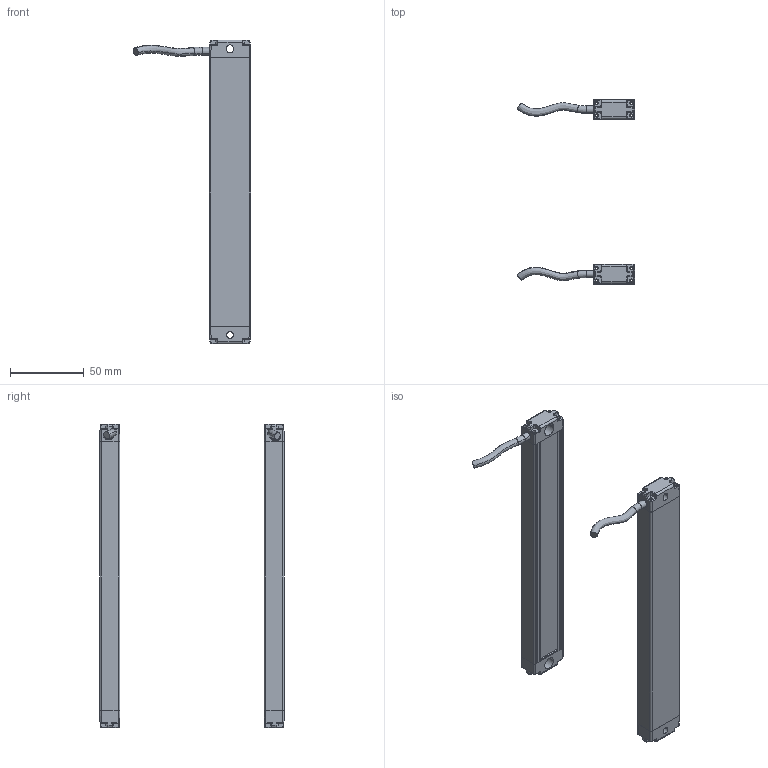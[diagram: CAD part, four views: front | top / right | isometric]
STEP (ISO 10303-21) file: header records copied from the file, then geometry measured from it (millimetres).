
FILE_DESCRIPTION(/* description */ (''),/* implementation_level */ '2;1');
FILE_NAME(/* name */ '1810(13X28W).stp',/* time_stamp */ '2021-03-03T11:00:10+08:00',/* author */ (''),/* organization */ (''),/* preprocessor_version */ 'ST-DEVELOPER v16',/* originating_system */ 'SIEMENS PLM Software NX 10.0',/* authorisation */ '');
FILE_SCHEMA (('AP203_CONFIGURATION_CONTROLLED_3D_DESIGN_OF_MECHANICAL_PARTS_AND_ASSEMBLIES_MIM_LF { 1 0 10303 403 2 1 2}'));
Length unit declared in the file: millimetre
Products named in the file (1): Admi220C8EB7bon2
Bounding box: 79.6 x 125.02 x 206 mm (x, y, z)
Volume: 63202.6 mm3; surface area: 83149.6 mm2
Topology: 10 solids, 10 shells, 760 faces, 2150 edges, 1419 vertices
Faces by surface type: plane 356, cylinder 312, torus 52, bspline 40
Entity records: 28299 total; most frequent: CARTESIAN_POINT 8763, ORIENTED_EDGE 4300, DIRECTION 3785, EDGE_CURVE 2150, VERTEX_POINT 1419, AXIS2_PLACEMENT_3D 1285, LINE 1215, VECTOR 1215
